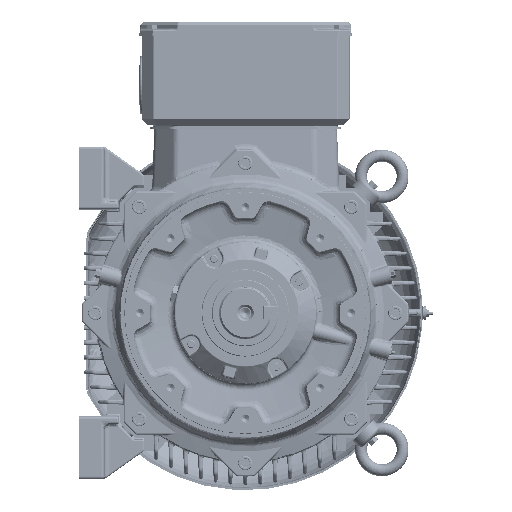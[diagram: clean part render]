
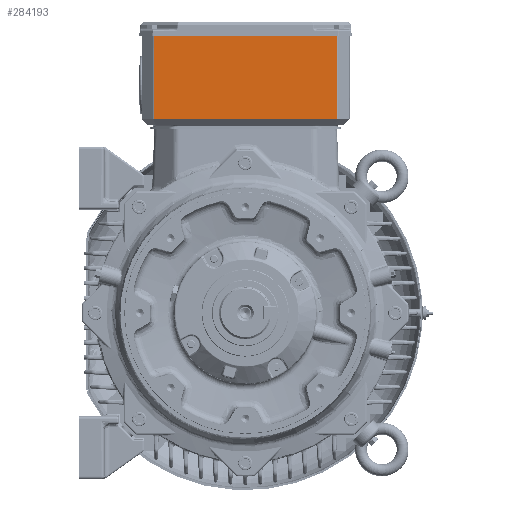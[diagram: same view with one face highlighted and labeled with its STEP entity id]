
A CAD part, front view. The second image highlights one B-rep face of the part: STEP entity #284193.
In plain terms, the highlighted planar face has unit normal (0, -1, 0).
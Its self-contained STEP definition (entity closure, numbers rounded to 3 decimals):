
#22113=LINE('',#392554,#39580);
#22173=LINE('',#392821,#39640);
#22174=LINE('',#392823,#39641);
#22175=LINE('',#392825,#39642);
#39580=VECTOR('',#332233,1000.);
#39640=VECTOR('',#332457,1000.);
#39641=VECTOR('',#332460,1000.);
#39642=VECTOR('',#332461,1000.);
#70284=ORIENTED_EDGE('',*,*,#117344,.F.);
#70285=ORIENTED_EDGE('',*,*,#117345,.T.);
#70286=ORIENTED_EDGE('',*,*,#117346,.T.);
#70287=ORIENTED_EDGE('',*,*,#117241,.T.);
#117241=EDGE_CURVE('',#142779,#142780,#22113,.T.);
#117344=EDGE_CURVE('',#142841,#142780,#22173,.T.);
#117345=EDGE_CURVE('',#142841,#142842,#22174,.T.);
#117346=EDGE_CURVE('',#142842,#142779,#22175,.T.);
#142779=VERTEX_POINT('',#392555);
#142780=VERTEX_POINT('',#392556);
#142841=VERTEX_POINT('',#392820);
#142842=VERTEX_POINT('',#392824);
#167180=EDGE_LOOP('',(#70284,#70285,#70286,#70287));
#182268=FACE_BOUND('',#167180,.T.);
#194934=PLANE('',#297130);
#284193=ADVANCED_FACE('',(#182268),#194934,.T.);
#297130=AXIS2_PLACEMENT_3D('',#392822,#332458,#332459);
#332233=DIRECTION('',(1.,0.,0.));
#332457=DIRECTION('',(0.,0.,-1.));
#332458=DIRECTION('',(0.,-1.,0.));
#332459=DIRECTION('',(1.,0.,0.));
#332460=DIRECTION('',(-1.,0.,0.));
#332461=DIRECTION('',(0.,0.,-1.));
#392554=CARTESIAN_POINT('',(155.507,23.041,326.056));
#392555=CARTESIAN_POINT('',(-153.25,22.996,326.056));
#392556=CARTESIAN_POINT('',(154.264,23.041,326.056));
#392820=CARTESIAN_POINT('',(154.264,23.041,466.056));
#392821=CARTESIAN_POINT('',(154.264,23.041,468.556));
#392822=CARTESIAN_POINT('',(155.507,23.041,468.556));
#392823=CARTESIAN_POINT('',(155.507,23.041,466.056));
#392824=CARTESIAN_POINT('',(-153.25,22.996,466.056));
#392825=CARTESIAN_POINT('',(-153.25,22.996,468.556));
